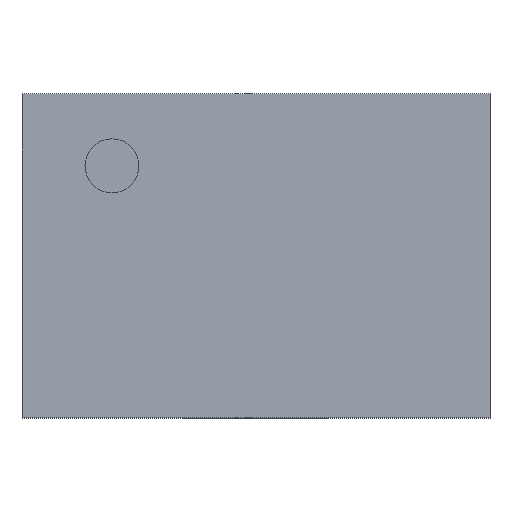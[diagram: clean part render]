
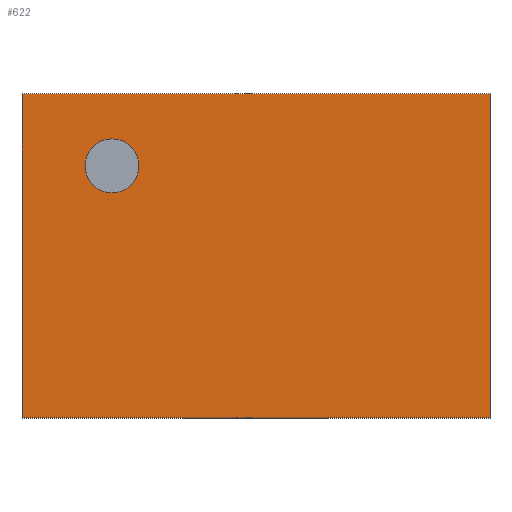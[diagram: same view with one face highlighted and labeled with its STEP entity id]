
A CAD part, top view. The second image highlights one B-rep face of the part: STEP entity #622.
In plain terms, the highlighted planar face has unit normal (0, 0, 1).
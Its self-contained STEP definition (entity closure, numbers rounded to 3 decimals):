
#13=FACE_BOUND('',#107,.T.);
#14=CIRCLE('',#677,0.075);
#67=FACE_OUTER_BOUND('',#106,.T.);
#106=EDGE_LOOP('',(#541,#542,#543,#544));
#107=EDGE_LOOP('',(#545));
#173=LINE('',#987,#249);
#177=LINE('',#994,#253);
#180=LINE('',#1000,#256);
#183=LINE('',#1011,#259);
#249=VECTOR('',#814,10.);
#253=VECTOR('',#820,10.);
#256=VECTOR('',#825,10.);
#259=VECTOR('',#840,10.);
#304=VERTEX_POINT('',#984);
#305=VERTEX_POINT('',#986);
#307=VERTEX_POINT('',#992);
#309=VERTEX_POINT('',#998);
#310=VERTEX_POINT('',#1002);
#377=EDGE_CURVE('',#305,#304,#173,.T.);
#381=EDGE_CURVE('',#304,#307,#177,.T.);
#384=EDGE_CURVE('',#307,#309,#180,.T.);
#385=EDGE_CURVE('',#310,#310,#14,.T.);
#389=EDGE_CURVE('',#309,#305,#183,.T.);
#541=ORIENTED_EDGE('',*,*,#381,.T.);
#542=ORIENTED_EDGE('',*,*,#384,.T.);
#543=ORIENTED_EDGE('',*,*,#389,.T.);
#544=ORIENTED_EDGE('',*,*,#377,.T.);
#545=ORIENTED_EDGE('',*,*,#385,.T.);
#583=PLANE('',#682);
#622=ADVANCED_FACE('',(#67,#13),#583,.T.);
#677=AXIS2_PLACEMENT_3D('',#1003,#828,#829);
#682=AXIS2_PLACEMENT_3D('',#1012,#841,#842);
#814=DIRECTION('',(0.,-1.,0.));
#820=DIRECTION('',(1.,0.,0.));
#825=DIRECTION('',(0.,1.,0.));
#828=DIRECTION('center_axis',(0.,0.,-1.));
#829=DIRECTION('ref_axis',(1.,0.,0.));
#840=DIRECTION('',(-1.,0.,0.));
#841=DIRECTION('center_axis',(0.,0.,1.));
#842=DIRECTION('ref_axis',(1.,0.,0.));
#984=CARTESIAN_POINT('',(0.,0.,0.5));
#986=CARTESIAN_POINT('',(0.,0.9,0.5));
#987=CARTESIAN_POINT('',(0.,0.,0.5));
#992=CARTESIAN_POINT('',(1.3,0.,0.5));
#994=CARTESIAN_POINT('',(1.3,0.,0.5));
#998=CARTESIAN_POINT('',(1.3,0.9,0.5));
#1000=CARTESIAN_POINT('',(1.3,0.9,0.5));
#1002=CARTESIAN_POINT('',(0.175,0.7,0.5));
#1003=CARTESIAN_POINT('Origin',(0.25,0.7,0.5));
#1011=CARTESIAN_POINT('',(0.,0.9,0.5));
#1012=CARTESIAN_POINT('Origin',(0.65,0.45,0.5));
